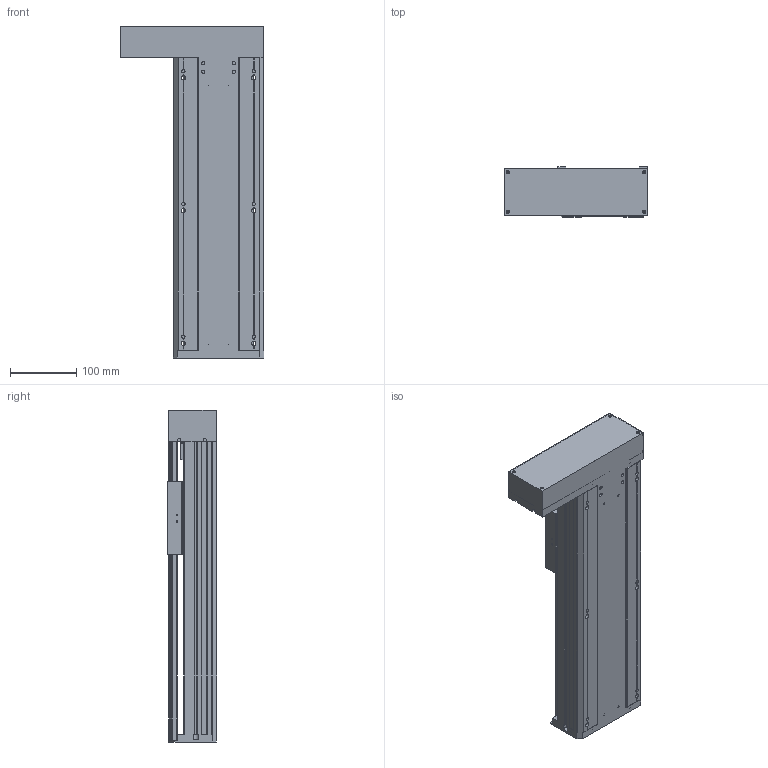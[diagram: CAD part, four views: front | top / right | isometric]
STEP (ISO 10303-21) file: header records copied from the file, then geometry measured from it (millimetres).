
FILE_DESCRIPTION(/* description */ (''),/* implementation_level */ '2;1');
FILE_NAME(/* name */ 'TKA136-FL-250_asm1.stp',/* time_stamp */ '2016-05-07T11:11:01+08:00',/* author */ (''),/* organization */ (''),/* preprocessor_version */ 'ST-DEVELOPER v15',/* originating_system */ 'SIEMENS PLM Software NX 8.5',/* authorisation */ '');
FILE_SCHEMA (('AUTOMOTIVE_DESIGN { 1 0 10303 214 3 1 1 1 }'));
Length unit declared in the file: millimetre
Products named in the file (3): 100-02; 100-01; TKA136-FL-250_asm1
Assembly tree (2 placements, depth 2):
  TKA136-FL-250_asm1
    100-01
    100-02
Bounding box: 216 x 75 x 500 mm (x, y, z)
Volume: 1738903.6 mm3; surface area: 689159.7 mm2
Topology: 2 solids, 12 shells, 854 faces, 2356 edges, 1537 vertices
Faces by surface type: plane 417, cylinder 386, cone 51
Full cylindrical faces by diameter (mm): 2.5 x14, 3 x2, 3.3 x13, 4 x4, 4.2 x6, 4.5 x24, 5 x14, 5.5 x26, 6.6 x10, 8 x20, 10 x9, 10.5 x6, 11 x4, 11.6 x1, 12 x9, 15 x3, 16 x5, 17 x1, 24 x5, 26 x1, 28 x1, 46 x1, 50 x1
Entity records: 27984 total; most frequent: CARTESIAN_POINT 7158, DIRECTION 4338, ORIENTED_EDGE 4002, EDGE_CURVE 2001, AXIS2_PLACEMENT_3D 1635, VERTEX_POINT 1432, EDGE_LOOP 1268, LINE 1068
